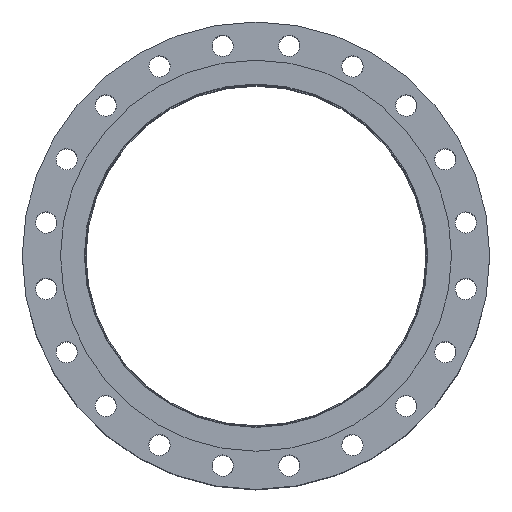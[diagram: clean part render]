
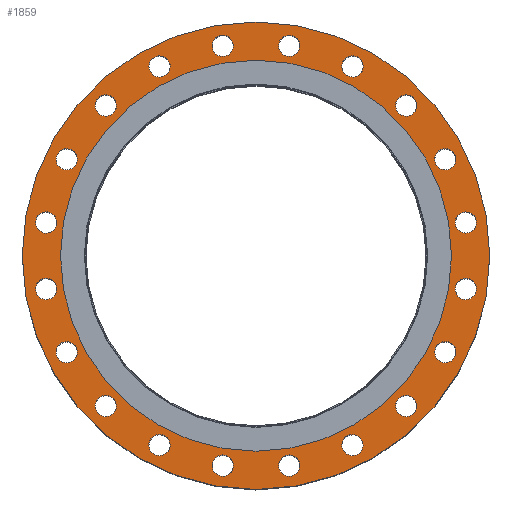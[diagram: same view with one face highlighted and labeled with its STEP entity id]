
A CAD part, top view. The second image highlights one B-rep face of the part: STEP entity #1859.
In plain terms, the highlighted planar face has unit normal (0, 0, 1).
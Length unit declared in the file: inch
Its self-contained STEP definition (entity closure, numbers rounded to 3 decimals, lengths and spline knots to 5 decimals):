
#96=FACE_BOUND('',#471,.T.);
#97=FACE_BOUND('',#472,.T.);
#98=FACE_BOUND('',#473,.T.);
#99=FACE_BOUND('',#474,.T.);
#100=FACE_BOUND('',#475,.T.);
#101=FACE_BOUND('',#476,.T.);
#102=FACE_BOUND('',#477,.T.);
#103=FACE_BOUND('',#478,.T.);
#104=FACE_BOUND('',#479,.T.);
#105=FACE_BOUND('',#480,.T.);
#106=FACE_BOUND('',#481,.T.);
#107=FACE_BOUND('',#482,.T.);
#108=FACE_BOUND('',#483,.T.);
#109=FACE_BOUND('',#484,.T.);
#110=FACE_BOUND('',#485,.T.);
#111=FACE_BOUND('',#486,.T.);
#112=FACE_BOUND('',#487,.T.);
#113=FACE_BOUND('',#488,.T.);
#114=FACE_BOUND('',#489,.T.);
#115=FACE_BOUND('',#490,.T.);
#116=FACE_BOUND('',#491,.T.);
#174=PLANE('',#2100);
#309=FACE_OUTER_BOUND('',#470,.T.);
#470=EDGE_LOOP('',(#1453));
#471=EDGE_LOOP('',(#1454));
#472=EDGE_LOOP('',(#1455));
#473=EDGE_LOOP('',(#1456));
#474=EDGE_LOOP('',(#1457));
#475=EDGE_LOOP('',(#1458));
#476=EDGE_LOOP('',(#1459));
#477=EDGE_LOOP('',(#1460));
#478=EDGE_LOOP('',(#1461));
#479=EDGE_LOOP('',(#1462));
#480=EDGE_LOOP('',(#1463));
#481=EDGE_LOOP('',(#1464));
#482=EDGE_LOOP('',(#1465));
#483=EDGE_LOOP('',(#1466));
#484=EDGE_LOOP('',(#1467));
#485=EDGE_LOOP('',(#1468));
#486=EDGE_LOOP('',(#1469));
#487=EDGE_LOOP('',(#1470));
#488=EDGE_LOOP('',(#1471));
#489=EDGE_LOOP('',(#1472));
#490=EDGE_LOOP('',(#1473));
#491=EDGE_LOOP('',(#1474));
#711=CIRCLE('',#2019,0.625);
#713=CIRCLE('',#2022,0.625);
#715=CIRCLE('',#2025,0.625);
#717=CIRCLE('',#2028,0.625);
#719=CIRCLE('',#2031,0.625);
#721=CIRCLE('',#2034,0.625);
#723=CIRCLE('',#2037,0.625);
#725=CIRCLE('',#2040,0.625);
#727=CIRCLE('',#2043,0.625);
#729=CIRCLE('',#2046,0.625);
#731=CIRCLE('',#2049,0.625);
#733=CIRCLE('',#2052,0.625);
#735=CIRCLE('',#2055,0.625);
#737=CIRCLE('',#2058,0.625);
#739=CIRCLE('',#2061,0.625);
#741=CIRCLE('',#2064,0.625);
#743=CIRCLE('',#2067,0.625);
#745=CIRCLE('',#2070,0.625);
#747=CIRCLE('',#2073,0.625);
#749=CIRCLE('',#2076,0.625);
#762=CIRCLE('',#2095,11.5);
#764=CIRCLE('',#2099,13.75);
#923=VERTEX_POINT('',#3154);
#925=VERTEX_POINT('',#3160);
#927=VERTEX_POINT('',#3166);
#929=VERTEX_POINT('',#3172);
#931=VERTEX_POINT('',#3178);
#933=VERTEX_POINT('',#3184);
#935=VERTEX_POINT('',#3190);
#937=VERTEX_POINT('',#3196);
#939=VERTEX_POINT('',#3202);
#941=VERTEX_POINT('',#3208);
#943=VERTEX_POINT('',#3214);
#945=VERTEX_POINT('',#3220);
#947=VERTEX_POINT('',#3226);
#949=VERTEX_POINT('',#3232);
#951=VERTEX_POINT('',#3238);
#953=VERTEX_POINT('',#3244);
#955=VERTEX_POINT('',#3250);
#957=VERTEX_POINT('',#3256);
#959=VERTEX_POINT('',#3262);
#961=VERTEX_POINT('',#3268);
#972=VERTEX_POINT('',#3300);
#974=VERTEX_POINT('',#3307);
#1083=EDGE_CURVE('',#923,#923,#711,.T.);
#1086=EDGE_CURVE('',#925,#925,#713,.T.);
#1089=EDGE_CURVE('',#927,#927,#715,.T.);
#1092=EDGE_CURVE('',#929,#929,#717,.T.);
#1095=EDGE_CURVE('',#931,#931,#719,.T.);
#1098=EDGE_CURVE('',#933,#933,#721,.T.);
#1101=EDGE_CURVE('',#935,#935,#723,.T.);
#1104=EDGE_CURVE('',#937,#937,#725,.T.);
#1107=EDGE_CURVE('',#939,#939,#727,.T.);
#1110=EDGE_CURVE('',#941,#941,#729,.T.);
#1113=EDGE_CURVE('',#943,#943,#731,.T.);
#1116=EDGE_CURVE('',#945,#945,#733,.T.);
#1119=EDGE_CURVE('',#947,#947,#735,.T.);
#1122=EDGE_CURVE('',#949,#949,#737,.T.);
#1125=EDGE_CURVE('',#951,#951,#739,.T.);
#1128=EDGE_CURVE('',#953,#953,#741,.T.);
#1131=EDGE_CURVE('',#955,#955,#743,.T.);
#1134=EDGE_CURVE('',#957,#957,#745,.T.);
#1137=EDGE_CURVE('',#959,#959,#747,.T.);
#1140=EDGE_CURVE('',#961,#961,#749,.T.);
#1156=EDGE_CURVE('',#972,#972,#762,.T.);
#1158=EDGE_CURVE('',#974,#974,#764,.T.);
#1453=ORIENTED_EDGE('',*,*,#1158,.T.);
#1454=ORIENTED_EDGE('',*,*,#1083,.T.);
#1455=ORIENTED_EDGE('',*,*,#1086,.T.);
#1456=ORIENTED_EDGE('',*,*,#1089,.T.);
#1457=ORIENTED_EDGE('',*,*,#1092,.T.);
#1458=ORIENTED_EDGE('',*,*,#1095,.T.);
#1459=ORIENTED_EDGE('',*,*,#1098,.T.);
#1460=ORIENTED_EDGE('',*,*,#1101,.T.);
#1461=ORIENTED_EDGE('',*,*,#1104,.T.);
#1462=ORIENTED_EDGE('',*,*,#1107,.T.);
#1463=ORIENTED_EDGE('',*,*,#1110,.T.);
#1464=ORIENTED_EDGE('',*,*,#1113,.T.);
#1465=ORIENTED_EDGE('',*,*,#1116,.T.);
#1466=ORIENTED_EDGE('',*,*,#1119,.T.);
#1467=ORIENTED_EDGE('',*,*,#1122,.T.);
#1468=ORIENTED_EDGE('',*,*,#1125,.T.);
#1469=ORIENTED_EDGE('',*,*,#1128,.T.);
#1470=ORIENTED_EDGE('',*,*,#1131,.T.);
#1471=ORIENTED_EDGE('',*,*,#1134,.T.);
#1472=ORIENTED_EDGE('',*,*,#1137,.T.);
#1473=ORIENTED_EDGE('',*,*,#1140,.T.);
#1474=ORIENTED_EDGE('',*,*,#1156,.T.);
#1859=ADVANCED_FACE('',(#309,#96,#97,#98,#99,#100,#101,#102,#103,#104,#105,
#106,#107,#108,#109,#110,#111,#112,#113,#114,#115,#116),#174,.T.);
#2019=AXIS2_PLACEMENT_3D('',#3155,#2391,#2392);
#2022=AXIS2_PLACEMENT_3D('',#3161,#2398,#2399);
#2025=AXIS2_PLACEMENT_3D('',#3167,#2405,#2406);
#2028=AXIS2_PLACEMENT_3D('',#3173,#2412,#2413);
#2031=AXIS2_PLACEMENT_3D('',#3179,#2419,#2420);
#2034=AXIS2_PLACEMENT_3D('',#3185,#2426,#2427);
#2037=AXIS2_PLACEMENT_3D('',#3191,#2433,#2434);
#2040=AXIS2_PLACEMENT_3D('',#3197,#2440,#2441);
#2043=AXIS2_PLACEMENT_3D('',#3203,#2447,#2448);
#2046=AXIS2_PLACEMENT_3D('',#3209,#2454,#2455);
#2049=AXIS2_PLACEMENT_3D('',#3215,#2461,#2462);
#2052=AXIS2_PLACEMENT_3D('',#3221,#2468,#2469);
#2055=AXIS2_PLACEMENT_3D('',#3227,#2475,#2476);
#2058=AXIS2_PLACEMENT_3D('',#3233,#2482,#2483);
#2061=AXIS2_PLACEMENT_3D('',#3239,#2489,#2490);
#2064=AXIS2_PLACEMENT_3D('',#3245,#2496,#2497);
#2067=AXIS2_PLACEMENT_3D('',#3251,#2503,#2504);
#2070=AXIS2_PLACEMENT_3D('',#3257,#2510,#2511);
#2073=AXIS2_PLACEMENT_3D('',#3263,#2517,#2518);
#2076=AXIS2_PLACEMENT_3D('',#3269,#2524,#2525);
#2095=AXIS2_PLACEMENT_3D('',#3302,#2565,#2566);
#2099=AXIS2_PLACEMENT_3D('',#3308,#2573,#2574);
#2100=AXIS2_PLACEMENT_3D('',#3310,#2576,#2577);
#2391=DIRECTION('center_axis',(0.,0.,-1.));
#2392=DIRECTION('ref_axis',(0.951,-0.309,0.));
#2398=DIRECTION('center_axis',(0.,0.,-1.));
#2399=DIRECTION('ref_axis',(0.809,-0.588,0.));
#2405=DIRECTION('center_axis',(0.,0.,-1.));
#2406=DIRECTION('ref_axis',(0.588,-0.809,0.));
#2412=DIRECTION('center_axis',(0.,0.,-1.));
#2413=DIRECTION('ref_axis',(0.309,-0.951,0.));
#2419=DIRECTION('center_axis',(0.,0.,-1.));
#2420=DIRECTION('ref_axis',(0.,-1.,0.));
#2426=DIRECTION('center_axis',(0.,0.,-1.));
#2427=DIRECTION('ref_axis',(-0.309,-0.951,0.));
#2433=DIRECTION('center_axis',(0.,0.,-1.));
#2434=DIRECTION('ref_axis',(-0.588,-0.809,0.));
#2440=DIRECTION('center_axis',(0.,0.,-1.));
#2441=DIRECTION('ref_axis',(-0.809,-0.588,0.));
#2447=DIRECTION('center_axis',(0.,0.,-1.));
#2448=DIRECTION('ref_axis',(-0.951,-0.309,0.));
#2454=DIRECTION('center_axis',(0.,0.,-1.));
#2455=DIRECTION('ref_axis',(-1.,0.,0.));
#2461=DIRECTION('center_axis',(0.,0.,-1.));
#2462=DIRECTION('ref_axis',(-0.951,0.309,0.));
#2468=DIRECTION('center_axis',(0.,0.,-1.));
#2469=DIRECTION('ref_axis',(-0.809,0.588,0.));
#2475=DIRECTION('center_axis',(0.,0.,-1.));
#2476=DIRECTION('ref_axis',(-0.588,0.809,0.));
#2482=DIRECTION('center_axis',(0.,0.,-1.));
#2483=DIRECTION('ref_axis',(-0.309,0.951,0.));
#2489=DIRECTION('center_axis',(0.,0.,-1.));
#2490=DIRECTION('ref_axis',(0.,1.,0.));
#2496=DIRECTION('center_axis',(0.,0.,-1.));
#2497=DIRECTION('ref_axis',(0.309,0.951,0.));
#2503=DIRECTION('center_axis',(0.,0.,-1.));
#2504=DIRECTION('ref_axis',(0.588,0.809,0.));
#2510=DIRECTION('center_axis',(0.,0.,-1.));
#2511=DIRECTION('ref_axis',(0.809,0.588,0.));
#2517=DIRECTION('center_axis',(0.,0.,-1.));
#2518=DIRECTION('ref_axis',(0.951,0.309,0.));
#2524=DIRECTION('center_axis',(0.,0.,-1.));
#2525=DIRECTION('ref_axis',(1.,0.,0.));
#2565=DIRECTION('center_axis',(0.,0.,-1.));
#2566=DIRECTION('ref_axis',(0.,1.,0.));
#2573=DIRECTION('center_axis',(0.,0.,1.));
#2574=DIRECTION('ref_axis',(1.,0.,0.));
#2576=DIRECTION('center_axis',(0.,0.,1.));
#2577=DIRECTION('ref_axis',(1.,0.,0.));
#3154=CARTESIAN_POINT('',(1.36102,12.53924,0.81));
#3155=CARTESIAN_POINT('Origin',(1.95543,12.3461,0.81));
#3160=CARTESIAN_POINT('',(5.16925,11.50495,0.81));
#3161=CARTESIAN_POINT('Origin',(5.67488,11.13758,0.81));
#3166=CARTESIAN_POINT('',(8.47147,9.34447,0.81));
#3167=CARTESIAN_POINT('Origin',(8.83883,8.83883,0.81));
#3172=CARTESIAN_POINT('',(10.94445,6.26929,0.81));
#3173=CARTESIAN_POINT('Origin',(11.13758,5.67488,0.81));
#3178=CARTESIAN_POINT('',(12.3461,2.58043,0.81));
#3179=CARTESIAN_POINT('Origin',(12.3461,1.95543,0.81));
#3184=CARTESIAN_POINT('',(12.53924,-1.36102,0.81));
#3185=CARTESIAN_POINT('Origin',(12.3461,-1.95543,0.81));
#3190=CARTESIAN_POINT('',(11.50495,-5.16925,0.81));
#3191=CARTESIAN_POINT('Origin',(11.13758,-5.67488,0.81));
#3196=CARTESIAN_POINT('',(9.34447,-8.47147,0.81));
#3197=CARTESIAN_POINT('Origin',(8.83883,-8.83883,0.81));
#3202=CARTESIAN_POINT('',(6.26929,-10.94445,0.81));
#3203=CARTESIAN_POINT('Origin',(5.67488,-11.13758,0.81));
#3208=CARTESIAN_POINT('',(2.58043,-12.3461,0.81));
#3209=CARTESIAN_POINT('Origin',(1.95543,-12.3461,0.81));
#3214=CARTESIAN_POINT('',(-1.36102,-12.53924,0.81));
#3215=CARTESIAN_POINT('Origin',(-1.95543,-12.3461,0.81));
#3220=CARTESIAN_POINT('',(-5.16925,-11.50495,0.81));
#3221=CARTESIAN_POINT('Origin',(-5.67488,-11.13758,0.81));
#3226=CARTESIAN_POINT('',(-8.47147,-9.34447,0.81));
#3227=CARTESIAN_POINT('Origin',(-8.83883,-8.83883,0.81));
#3232=CARTESIAN_POINT('',(-10.94445,-6.26929,0.81));
#3233=CARTESIAN_POINT('Origin',(-11.13758,-5.67488,0.81));
#3238=CARTESIAN_POINT('',(-12.3461,-2.58043,0.81));
#3239=CARTESIAN_POINT('Origin',(-12.3461,-1.95543,0.81));
#3244=CARTESIAN_POINT('',(-12.53924,1.36102,0.81));
#3245=CARTESIAN_POINT('Origin',(-12.3461,1.95543,0.81));
#3250=CARTESIAN_POINT('',(-11.50495,5.16925,0.81));
#3251=CARTESIAN_POINT('Origin',(-11.13758,5.67488,0.81));
#3256=CARTESIAN_POINT('',(-9.34447,8.47147,0.81));
#3257=CARTESIAN_POINT('Origin',(-8.83883,8.83883,0.81));
#3262=CARTESIAN_POINT('',(-6.26929,10.94445,0.81));
#3263=CARTESIAN_POINT('Origin',(-5.67488,11.13758,0.81));
#3268=CARTESIAN_POINT('',(-2.58043,12.3461,0.81));
#3269=CARTESIAN_POINT('Origin',(-1.95543,12.3461,0.81));
#3300=CARTESIAN_POINT('',(0.,-11.5,0.81));
#3302=CARTESIAN_POINT('Origin',(0.,0.,0.81));
#3307=CARTESIAN_POINT('',(0.,-13.75,0.81));
#3308=CARTESIAN_POINT('Origin',(0.,0.,0.81));
#3310=CARTESIAN_POINT('Origin',(0.,10.1,0.81));
